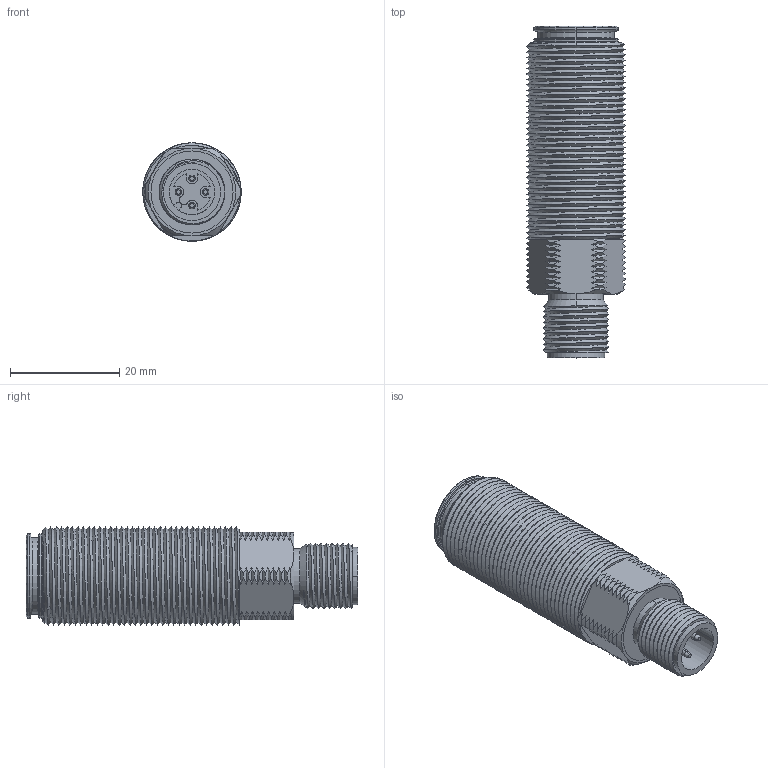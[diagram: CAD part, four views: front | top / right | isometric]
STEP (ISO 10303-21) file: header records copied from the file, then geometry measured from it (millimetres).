
FILE_DESCRIPTION((''),'2;1');
FILE_NAME('0000036487_ASM','2012-04-25T',('11000065'),(''),'PRO/ENGINEER BY PARAMETRIC TECHNOLOGY CORPORATION, 2011180','PRO/ENGINEER BY PARAMETRIC TECHNOLOGY CORPORATION, 2011180','');
FILE_SCHEMA(('AUTOMOTIVE_DESIGN { 1 0 10303 214 1 1 1 1 }'));
Products named in the file (4): 0000036482; 0000036491; 0000036494; 0000036487_ASM
Assembly tree (3 placements, depth 2):
  0000036487_ASM
    0000036482
    0000036491
    0000036494
Bounding box: 18 x 60.7 x 18 mm (x, y, z)
Volume: 4719.1 mm3; surface area: 8258.9 mm2
Topology: 3 solids, 3 shells, 382 faces, 1048 edges, 688 vertices
Faces by surface type: cylinder 150, bspline 140, plane 50, cone 28, torus 14
Entity records: 61461 total; most frequent: CARTESIAN_POINT 48383, ORIENTED_EDGE 2080, DIRECTION 1110, PRESENTATION_STYLE_ASSIGNMENT 1091, STYLED_ITEM 1043, CURVE_STYLE 1040, EDGE_CURVE 1040, VERTEX_POINT 688
